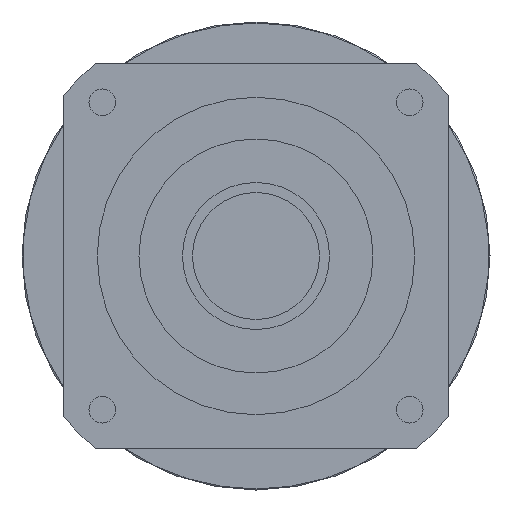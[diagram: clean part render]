
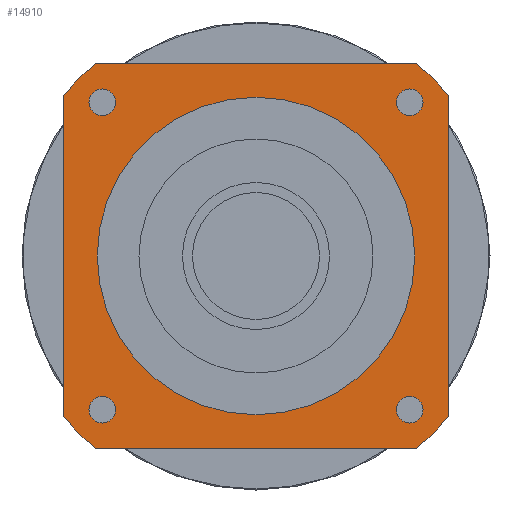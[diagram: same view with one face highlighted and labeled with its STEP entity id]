
A CAD part, left-side view. The second image highlights one B-rep face of the part: STEP entity #14910.
In plain terms, the highlighted planar face has unit normal (-1, 0, 0) as drawn and (0, 0, -1) by its records, which use the part's own axes.
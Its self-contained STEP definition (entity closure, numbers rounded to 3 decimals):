
#10150=CARTESIAN_POINT('',(57.5,-48.153,-84.7));
#10160=VERTEX_POINT('',#10150);
#10210=CARTESIAN_POINT('',(0.,0.,
-84.7));
#10220=DIRECTION('',(0.,0.,-1.));
#10230=DIRECTION('',(1.,0.,0.));
#10240=AXIS2_PLACEMENT_3D('',#10210,#10220,#10230);
#10250=CIRCLE('',#10240,75.);
#10260=CARTESIAN_POINT('',(48.153,-57.5,-84.7));
#10270=VERTEX_POINT('',#10260);
#10280=EDGE_CURVE('',#10160,#10270,#10250,.T.);
#10680=CARTESIAN_POINT('',(57.5,-57.5,-84.7));
#10690=DIRECTION('',(-1.,0.,0.));
#10700=VECTOR('',#10690,1000.);
#10710=LINE('',#10680,#10700);
#10720=CARTESIAN_POINT('',(-48.153,-57.5,-84.7));
#10730=VERTEX_POINT('',#10720);
#10740=EDGE_CURVE('',#10270,#10730,#10710,.T.);
#13120=CARTESIAN_POINT('',(57.5,48.153,-84.7));
#13130=VERTEX_POINT('',#13120);
#13160=CARTESIAN_POINT('',(57.5,57.5,-84.7));
#13170=DIRECTION('',(0.,-1.,0.));
#13180=VECTOR('',#13170,1000.);
#13190=LINE('',#13160,#13180);
#13200=EDGE_CURVE('',#13130,#10160,#13190,.T.);
#13360=CARTESIAN_POINT('',(48.153,57.5,-84.7));
#13370=VERTEX_POINT('',#13360);
#13400=CARTESIAN_POINT('',(0.,0.,
-84.7));
#13410=DIRECTION('',(0.,0.,-1.));
#13420=DIRECTION('',(1.,0.,0.));
#13430=AXIS2_PLACEMENT_3D('',#13400,#13410,#13420);
#13440=CIRCLE('',#13430,75.);
#13450=EDGE_CURVE('',#13370,#13130,#13440,.T.);
#13580=CARTESIAN_POINT('',(0.,0.,
-84.7));
#13590=DIRECTION('',(0.,0.,-1.));
#13600=DIRECTION('',(1.,0.,0.));
#13610=AXIS2_PLACEMENT_3D('',#13580,#13590,#13600);
#13620=CIRCLE('',#13610,75.);
#13630=CARTESIAN_POINT('',(-57.5,-48.153,-84.7));
#13640=VERTEX_POINT('',#13630);
#13650=EDGE_CURVE('',#10730,#13640,#13620,.T.);
#13770=CARTESIAN_POINT('',(57.5,57.5,-84.7));
#13780=DIRECTION('',(0.,0.,-1.));
#13790=DIRECTION('',(1.,0.,0.));
#13800=AXIS2_PLACEMENT_3D('',#13770,#13780,#13790);
#13810=PLANE('',#13800);
#13820=CARTESIAN_POINT('',(-45.962,45.962,-84.7));
#13830=DIRECTION('',(0.,0.,-1.));
#13840=DIRECTION('',(-1.,0.,0.));
#13850=AXIS2_PLACEMENT_3D('',#13820,#13830,#13840);
#13860=CIRCLE('',#13850,4.);
#13870=CARTESIAN_POINT('',(-49.962,45.962,-84.7));
#13880=VERTEX_POINT('',#13870);
#13890=CARTESIAN_POINT('',(-41.962,45.962,-84.7));
#13900=VERTEX_POINT('',#13890);
#13910=EDGE_CURVE('',#13880,#13900,#13860,.T.);
#13920=ORIENTED_EDGE('',*,*,#13910,.F.);
#13930=EDGE_CURVE('',#13900,#13880,#13860,.T.);
#13940=ORIENTED_EDGE('',*,*,#13930,.F.);
#13950=EDGE_LOOP('',(#13940,#13920));
#13960=FACE_BOUND('',#13950,.T.);
#13970=CARTESIAN_POINT('',(45.962,45.962,-84.7));
#13980=DIRECTION('',(0.,0.,-1.));
#13990=DIRECTION('',(0.,1.,0.));
#14000=AXIS2_PLACEMENT_3D('',#13970,#13980,#13990);
#14010=CIRCLE('',#14000,4.);
#14020=CARTESIAN_POINT('',(45.962,49.962,-84.7));
#14030=VERTEX_POINT('',#14020);
#14040=CARTESIAN_POINT('',(45.962,41.962,-84.7));
#14050=VERTEX_POINT('',#14040);
#14060=EDGE_CURVE('',#14030,#14050,#14010,.T.);
#14070=ORIENTED_EDGE('',*,*,#14060,.F.);
#14080=EDGE_CURVE('',#14050,#14030,#14010,.T.);
#14090=ORIENTED_EDGE('',*,*,#14080,.F.);
#14100=EDGE_LOOP('',(#14090,#14070));
#14110=FACE_BOUND('',#14100,.T.);
#14120=CARTESIAN_POINT('',(0.,0.,
-84.7));
#14130=DIRECTION('',(0.,0.,1.));
#14140=DIRECTION('',(0.,1.,0.));
#14150=AXIS2_PLACEMENT_3D('',#14120,#14130,#14140);
#14160=CIRCLE('',#14150,47.5);
#14170=CARTESIAN_POINT('',(-47.5,0.,-84.7));
#14180=VERTEX_POINT('',#14170);
#14190=CARTESIAN_POINT('',(47.5,0.,-84.7));
#14200=VERTEX_POINT('',#14190);
#14210=EDGE_CURVE('',#14180,#14200,#14160,.T.);
#14220=ORIENTED_EDGE('',*,*,#14210,.T.);
#14230=CARTESIAN_POINT('',(0.,47.5,-84.7));
#14240=VERTEX_POINT('',#14230);
#14250=EDGE_CURVE('',#14240,#14180,#14160,.T.);
#14260=ORIENTED_EDGE('',*,*,#14250,.T.);
#14270=EDGE_CURVE('',#14200,#14240,#14160,.T.);
#14280=ORIENTED_EDGE('',*,*,#14270,.T.);
#14290=EDGE_LOOP('',(#14280,#14260,#14220));
#14300=FACE_BOUND('',#14290,.T.);
#14310=CARTESIAN_POINT('',(45.962,-45.962,-84.7));
#14320=DIRECTION('',(0.,0.,-1.));
#14330=DIRECTION('',(1.,0.,0.));
#14340=AXIS2_PLACEMENT_3D('',#14310,#14320,#14330);
#14350=CIRCLE('',#14340,4.);
#14360=CARTESIAN_POINT('',(49.962,-45.962,-84.7));
#14370=VERTEX_POINT('',#14360);
#14380=CARTESIAN_POINT('',(41.962,-45.962,-84.7));
#14390=VERTEX_POINT('',#14380);
#14400=EDGE_CURVE('',#14370,#14390,#14350,.T.);
#14410=ORIENTED_EDGE('',*,*,#14400,.F.);
#14420=EDGE_CURVE('',#14390,#14370,#14350,.T.);
#14430=ORIENTED_EDGE('',*,*,#14420,.F.);
#14440=EDGE_LOOP('',(#14430,#14410));
#14450=FACE_BOUND('',#14440,.T.);
#14460=CARTESIAN_POINT('',(-45.962,-45.962,-84.7));
#14470=DIRECTION('',(0.,0.,-1.));
#14480=DIRECTION('',(0.,-1.,0.));
#14490=AXIS2_PLACEMENT_3D('',#14460,#14470,#14480);
#14500=CIRCLE('',#14490,4.);
#14510=CARTESIAN_POINT('',(-45.962,-49.962,-84.7));
#14520=VERTEX_POINT('',#14510);
#14530=CARTESIAN_POINT('',(-45.962,-41.962,-84.7));
#14540=VERTEX_POINT('',#14530);
#14550=EDGE_CURVE('',#14520,#14540,#14500,.T.);
#14560=ORIENTED_EDGE('',*,*,#14550,.F.);
#14570=EDGE_CURVE('',#14540,#14520,#14500,.T.);
#14580=ORIENTED_EDGE('',*,*,#14570,.F.);
#14590=EDGE_LOOP('',(#14580,#14560));
#14600=FACE_BOUND('',#14590,.T.);
#14610=CARTESIAN_POINT('',(-57.5,57.5,-84.7));
#14620=DIRECTION('',(1.,0.,0.));
#14630=VECTOR('',#14620,1000.);
#14640=LINE('',#14610,#14630);
#14650=CARTESIAN_POINT('',(-48.153,57.5,-84.7));
#14660=VERTEX_POINT('',#14650);
#14670=EDGE_CURVE('',#14660,#13370,#14640,.T.);
#14680=ORIENTED_EDGE('',*,*,#14670,.T.);
#14690=CARTESIAN_POINT('',(0.,0.,
-84.7));
#14700=DIRECTION('',(0.,0.,-1.));
#14710=DIRECTION('',(1.,0.,0.));
#14720=AXIS2_PLACEMENT_3D('',#14690,#14700,#14710);
#14730=CIRCLE('',#14720,75.);
#14740=CARTESIAN_POINT('',(-57.5,48.153,-84.7));
#14750=VERTEX_POINT('',#14740);
#14760=EDGE_CURVE('',#14750,#14660,#14730,.T.);
#14770=ORIENTED_EDGE('',*,*,#14760,.T.);
#14780=CARTESIAN_POINT('',(-57.5,-57.5,-84.7));
#14790=DIRECTION('',(0.,1.,0.));
#14800=VECTOR('',#14790,1000.);
#14810=LINE('',#14780,#14800);
#14820=EDGE_CURVE('',#13640,#14750,#14810,.T.);
#14830=ORIENTED_EDGE('',*,*,#14820,.T.);
#14840=ORIENTED_EDGE('',*,*,#13650,.T.);
#14850=ORIENTED_EDGE('',*,*,#10740,.T.);
#14860=ORIENTED_EDGE('',*,*,#10280,.T.);
#14870=ORIENTED_EDGE('',*,*,#13200,.T.);
#14880=ORIENTED_EDGE('',*,*,#13450,.T.);
#14890=EDGE_LOOP('',(#14880,#14870,#14860,#14850,#14840,#14830,#14770,
#14680));
#14900=FACE_OUTER_BOUND('',#14890,.T.);
#14910=ADVANCED_FACE('',(#13960,#14110,#14300,#14450,#14600,#14900),
#13810,.T.);
